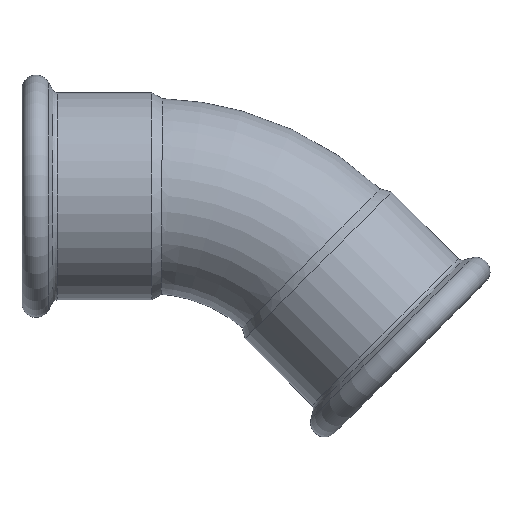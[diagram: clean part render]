
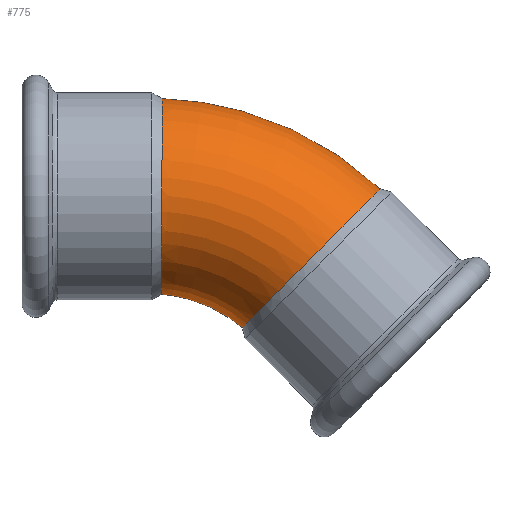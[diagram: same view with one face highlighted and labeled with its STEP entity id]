
A CAD part, top view. The second image highlights one B-rep face of the part: STEP entity #775.
In plain terms, the highlighted toroidal (fillet/blend) face has major radius 92 mm and minor radius 38.05 mm.
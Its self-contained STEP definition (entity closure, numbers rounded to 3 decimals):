
#684=CARTESIAN_POINT('',(0.0,-92.,0.0));
#685=DIRECTION('',(0.0,0.0,1.0));
#686=DIRECTION('',(0.93,-0.367,0.0));
#687=AXIS2_PLACEMENT_3D('',#684,#685,#686);
#688=TOROIDAL_SURFACE('',#687,92.,38.05);
#689=CARTESIAN_POINT('',(4.156,37.984,0.));
#690=VERTEX_POINT('',#689);
#691=CARTESIAN_POINT('',(4.156,37.984,0.));
#692=CARTESIAN_POINT('',(4.156,37.984,-4.943));
#693=CARTESIAN_POINT('',(4.154,37.02,-9.84));
#694=CARTESIAN_POINT('',(4.145,33.288,-18.953));
#695=CARTESIAN_POINT('',(4.138,30.568,-23.09));
#696=CARTESIAN_POINT('',(4.12,23.742,-30.07));
#697=CARTESIAN_POINT('',(4.109,19.711,-32.862));
#698=CARTESIAN_POINT('',(4.081,10.862,-36.758));
#699=CARTESIAN_POINT('',(4.065,6.133,-37.845));
#700=CARTESIAN_POINT('',(4.027,-3.458,-38.202));
#701=CARTESIAN_POINT('',(4.006,-8.233,-37.476));
#702=CARTESIAN_POINT('',(3.959,-17.332,-34.272));
#703=CARTESIAN_POINT('',(3.934,-21.564,-31.797));
#704=CARTESIAN_POINT('',(3.884,-29.005,-25.273));
#705=CARTESIAN_POINT('',(3.86,-32.098,-21.233));
#706=CARTESIAN_POINT('',(3.825,-36.321,-12.608));
#707=CARTESIAN_POINT('',(3.813,-37.573,-8.179));
#708=CARTESIAN_POINT('',(3.806,-38.336,-0.241));
#709=CARTESIAN_POINT('',(3.808,-38.204,3.181));
#710=CARTESIAN_POINT('',(3.821,-36.748,11.513));
#711=CARTESIAN_POINT('',(3.838,-34.896,16.263));
#712=CARTESIAN_POINT('',(3.88,-29.588,24.543));
#713=CARTESIAN_POINT('',(3.904,-26.268,28.048));
#714=CARTESIAN_POINT('',(3.954,-18.284,33.807));
#715=CARTESIAN_POINT('',(3.979,-13.633,35.92));
#716=CARTESIAN_POINT('',(4.026,-3.794,38.203));
#717=CARTESIAN_POINT('',(4.047,1.297,38.357));
#718=CARTESIAN_POINT('',(4.083,11.24,36.675));
#719=CARTESIAN_POINT('',(4.098,15.994,34.855));
#720=CARTESIAN_POINT('',(4.123,24.537,29.458));
#721=CARTESIAN_POINT('',(4.132,28.235,25.927));
#722=CARTESIAN_POINT('',(4.145,33.337,18.619));
#723=CARTESIAN_POINT('',(4.149,35.049,15.147));
#724=CARTESIAN_POINT('',(4.154,37.386,7.765));
#725=CARTESIAN_POINT('',(4.156,37.984,3.894));
#726=CARTESIAN_POINT('',(4.156,37.984,0.0));
#727=B_SPLINE_CURVE_WITH_KNOTS('',3,(#691,#692,#693,#694,#695,#696,#697,#698,#699,#700,#701,#702,#703,#704,#705,#706,#707,#708,#709,#710,#711,#712,#713,#714,#715,#716,#717,#718,#719,#720,#721,#722,#723,#724,#725,#726),.UNSPECIFIED.,.T.,.U.,(4,2,2,2,2,2,2,2,2,2,2,2,2,2,2,2,2,4),(0.0,1.483,2.954,4.412,5.855,7.291,8.749,10.26,11.63,12.652,14.167,15.603,17.12,18.633,20.146,21.665,22.819,23.988),.UNSPECIFIED.);
#728=EDGE_CURVE('',#690,#690,#727,.T.);
#729=ORIENTED_EDGE('',*,*,#728,.F.);
#730=EDGE_LOOP('',(#729));
#731=FACE_OUTER_BOUND('',#730,.T.);
#732=CARTESIAN_POINT('',(88.974,2.851,0.));
#733=VERTEX_POINT('',#732);
#734=CARTESIAN_POINT('',(88.974,2.851,0.));
#735=CARTESIAN_POINT('',(88.974,2.851,4.952));
#736=CARTESIAN_POINT('',(88.291,2.165,9.857));
#737=CARTESIAN_POINT('',(85.639,-0.499,19.019));
#738=CARTESIAN_POINT('',(83.695,-2.453,23.189));
#739=CARTESIAN_POINT('',(78.791,-7.383,30.239));
#740=CARTESIAN_POINT('',(75.878,-10.312,33.051));
#741=CARTESIAN_POINT('',(69.458,-16.773,36.937));
#742=CARTESIAN_POINT('',(66.013,-20.242,37.974));
#743=CARTESIAN_POINT('',(59.04,-27.271,38.118));
#744=CARTESIAN_POINT('',(55.578,-30.764,37.225));
#745=CARTESIAN_POINT('',(49.09,-37.321,33.606));
#746=CARTESIAN_POINT('',(46.125,-40.322,30.913));
#747=CARTESIAN_POINT('',(41.085,-45.432,24.052));
#748=CARTESIAN_POINT('',(39.06,-47.49,19.947));
#749=CARTESIAN_POINT('',(36.234,-50.364,10.857));
#750=CARTESIAN_POINT('',(35.461,-51.152,5.961));
#751=CARTESIAN_POINT('',(35.28,-51.337,-3.947));
#752=CARTESIAN_POINT('',(35.865,-50.74,-8.863));
#753=CARTESIAN_POINT('',(38.32,-48.242,-18.092));
#754=CARTESIAN_POINT('',(40.165,-46.367,-22.318));
#755=CARTESIAN_POINT('',(44.899,-41.565,-29.552));
#756=CARTESIAN_POINT('',(47.749,-38.678,-32.484));
#757=CARTESIAN_POINT('',(54.094,-32.263,-36.638));
#758=CARTESIAN_POINT('',(57.531,-28.794,-37.813));
#759=CARTESIAN_POINT('',(64.53,-21.736,-38.222));
#760=CARTESIAN_POINT('',(68.025,-18.215,-37.452));
#761=CARTESIAN_POINT('',(74.607,-11.59,-34.051));
#762=CARTESIAN_POINT('',(77.631,-8.549,-31.456));
#763=CARTESIAN_POINT('',(82.803,-3.349,-24.769));
#764=CARTESIAN_POINT('',(84.903,-1.239,-20.743));
#765=CARTESIAN_POINT('',(87.243,1.112,-13.727));
#766=CARTESIAN_POINT('',(87.888,1.761,-11.068));
#767=CARTESIAN_POINT('',(88.755,2.631,-5.598));
#768=CARTESIAN_POINT('',(88.974,2.851,-2.803));
#769=CARTESIAN_POINT('',(88.974,2.851,0.));
#770=B_SPLINE_CURVE_WITH_KNOTS('',3,(#734,#735,#736,#737,#738,#739,#740,#741,#742,#743,#744,#745,#746,#747,#748,#749,#750,#751,#752,#753,#754,#755,#756,#757,#758,#759,#760,#761,#762,#763,#764,#765,#766,#767,#768,#769),.UNSPECIFIED.,.T.,.U.,(4,2,2,2,2,2,2,2,2,2,2,2,2,2,2,2,2,4),(0.0,1.486,2.971,4.456,5.942,7.427,8.914,10.406,11.897,13.379,14.858,16.346,17.838,19.33,20.82,22.308,23.148,23.989),.UNSPECIFIED.);
#771=EDGE_CURVE('',#733,#733,#770,.T.);
#772=ORIENTED_EDGE('',*,*,#771,.F.);
#773=EDGE_LOOP('',(#772));
#774=FACE_BOUND('',#773,.T.);
#775=ADVANCED_FACE('',(#731,#774),#688,.T.);
